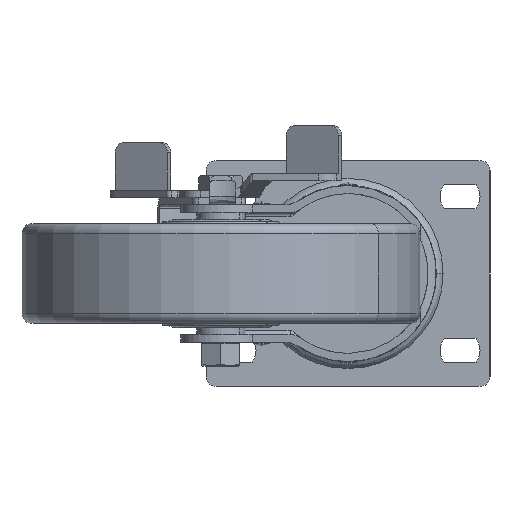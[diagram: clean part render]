
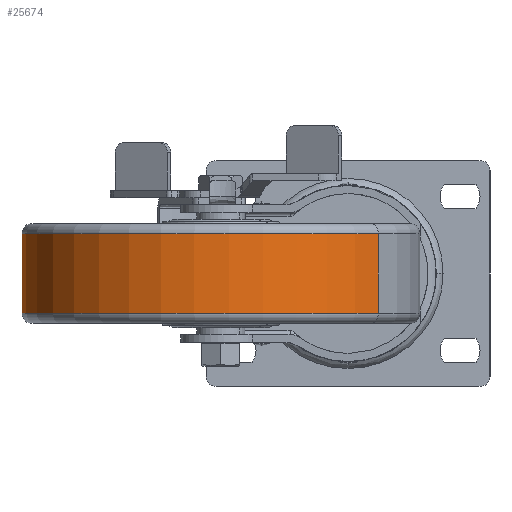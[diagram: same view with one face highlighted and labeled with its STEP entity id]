
A CAD part, front view. The second image highlights one B-rep face of the part: STEP entity #25674.
In plain terms, the highlighted cylindrical face has radius 99.5 mm (diameter 199 mm), a partial arc.
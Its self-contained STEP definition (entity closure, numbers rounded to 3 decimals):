
#486 = CARTESIAN_POINT ( 'NONE',  ( 0., -99.5, 26. ) ) ;
#5008 = ORIENTED_EDGE ( 'NONE', *, *, #57523, .F. ) ;
#6295 = VECTOR ( 'NONE', #91940, 1000. ) ;
#12093 = DIRECTION ( 'NONE',  ( 0., 0., 1. ) ) ;
#14141 = DIRECTION ( 'NONE',  ( 0., -1., 0. ) ) ;
#15146 = CARTESIAN_POINT ( 'NONE',  ( 0., 0., 26. ) ) ;
#15979 = ORIENTED_EDGE ( 'NONE', *, *, #140159, .T. ) ;
#18505 = AXIS2_PLACEMENT_3D ( 'NONE', #15146, #49955, #14141 ) ;
#23356 = CARTESIAN_POINT ( 'NONE',  ( 0., 99.5, 26. ) ) ;
#25674 = ADVANCED_FACE ( 'NONE', ( #29257 ), #117667, .T. ) ;
#26433 = VERTEX_POINT ( 'NONE', #103382 ) ;
#27309 = EDGE_CURVE ( 'NONE', #57777, #68200, #43538, .T. ) ;
#28678 = DIRECTION ( 'NONE',  ( 0., -1., 0. ) ) ;
#29257 = FACE_OUTER_BOUND ( 'NONE', #134257, .T. ) ;
#33452 = VERTEX_POINT ( 'NONE', #65315 ) ;
#37165 = EDGE_CURVE ( 'NONE', #33452, #26433, #86435, .T. ) ;
#43538 = CIRCLE ( 'NONE', #95819, 99.5 ) ;
#49955 = DIRECTION ( 'NONE',  ( 0., 0., 1. ) ) ;
#53424 = AXIS2_PLACEMENT_3D ( 'NONE', #74578, #97257, #28678 ) ;
#57523 = EDGE_CURVE ( 'NONE', #57777, #33452, #110935, .T. ) ;
#57777 = VERTEX_POINT ( 'NONE', #138871 ) ;
#58533 = ORIENTED_EDGE ( 'NONE', *, *, #27309, .T. ) ;
#61895 = CARTESIAN_POINT ( 'NONE',  ( 0., -99.5, -20. ) ) ;
#65315 = CARTESIAN_POINT ( 'NONE',  ( 0., 99.5, 20. ) ) ;
#68200 = VERTEX_POINT ( 'NONE', #61895 ) ;
#70582 = DIRECTION ( 'NONE',  ( 0., 0., 1. ) ) ;
#74578 = CARTESIAN_POINT ( 'NONE',  ( 0., 0., 20. ) ) ;
#81543 = ORIENTED_EDGE ( 'NONE', *, *, #37165, .F. ) ;
#84155 = VECTOR ( 'NONE', #12093, 1000. ) ;
#86435 = CIRCLE ( 'NONE', #53424, 99.5 ) ;
#91940 = DIRECTION ( 'NONE',  ( 0., 0., 1. ) ) ;
#95819 = AXIS2_PLACEMENT_3D ( 'NONE', #117480, #70582, #140658 ) ;
#97257 = DIRECTION ( 'NONE',  ( 0., 0., 1. ) ) ;
#100375 = LINE ( 'NONE', #486, #84155 ) ;
#103382 = CARTESIAN_POINT ( 'NONE',  ( 0., -99.5, 20. ) ) ;
#110935 = LINE ( 'NONE', #23356, #6295 ) ;
#117480 = CARTESIAN_POINT ( 'NONE',  ( 0., 0., -20. ) ) ;
#117667 = CYLINDRICAL_SURFACE ( 'NONE', #18505, 99.5 ) ;
#134257 = EDGE_LOOP ( 'NONE', ( #5008, #58533, #15979, #81543 ) ) ;
#138871 = CARTESIAN_POINT ( 'NONE',  ( 0., 99.5, -20. ) ) ;
#140159 = EDGE_CURVE ( 'NONE', #68200, #26433, #100375, .T. ) ;
#140658 = DIRECTION ( 'NONE',  ( 0., -1., 0. ) ) ;
